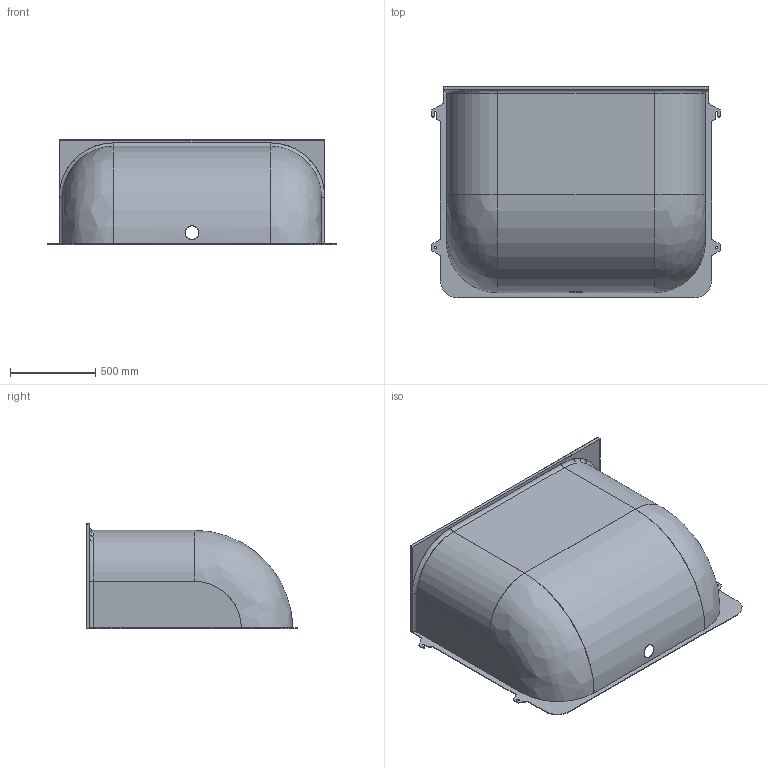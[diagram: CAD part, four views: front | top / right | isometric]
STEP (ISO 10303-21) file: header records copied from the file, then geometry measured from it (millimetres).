
FILE_DESCRIPTION(/* description */ (''),/* implementation_level */ '2;1');
FILE_NAME(/* name */ 'Q:\sge-bs-neu-2008\Marketing\CAD Zeichnungen\3D-CAD-Daten\3D Daten Website\- MEA Multinorm Kunststofflichtschacht\Step\Multinorm_150x120x60.stp',/* time_stamp */ '2019-02-14T10:52:11+01:00',/* author */ ('avgrahammj'),/* organization */ (''),/* preprocessor_version */ 'ST-DEVELOPER v16.1',/* originating_system */ 'Autodesk Inventor 2016',/* authorisation */ '');
FILE_SCHEMA (('AUTOMOTIVE_DESIGN { 1 0 10303 214 3 1 1 }'));
Length unit declared in the file: millimetre
Products named in the file (1): Multinorm_150x120x60
Bounding box: 1692 x 1240 x 617 mm (x, y, z)
Volume: 13761882.6 mm3; surface area: 6912407.4 mm2
Topology: 1 solids, 1 shells, 71 faces, 195 edges, 126 vertices
Faces by surface type: plane 40, cylinder 23, torus 4, bspline 4
Full cylindrical faces by diameter (mm): 16 x2, 80 x1
Entity records: 2488 total; most frequent: CARTESIAN_POINT 642, ORIENTED_EDGE 384, DIRECTION 374, EDGE_CURVE 192, LINE 130, VECTOR 130, VERTEX_POINT 126, AXIS2_PLACEMENT_3D 122
